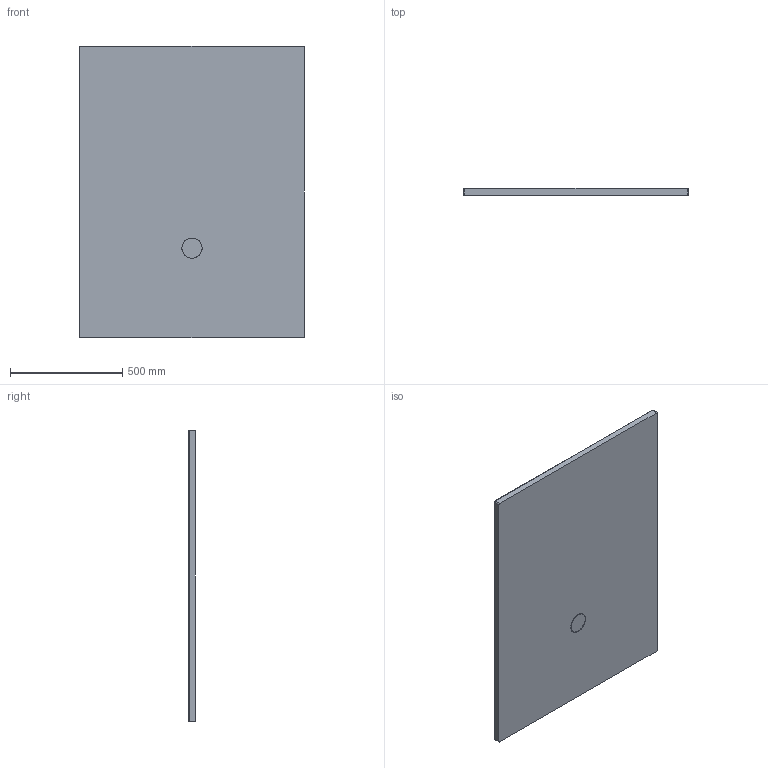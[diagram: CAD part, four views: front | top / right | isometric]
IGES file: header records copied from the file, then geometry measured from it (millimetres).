
Start section: SolidWorks IGES file using analytic representation for surfaces
Global section: file name: D:\Users\M.Szymanski\Desktop\Brodziki\Nias\B_M_NIAS_130x100x1,5.IGS; native system: SolidWorks 2011; preprocessor: SolidWorks 2011; author: M.Szymanski; date: 180222.142210; units: millimetre
Bounding box: 1000 x 30 x 1300 mm (x, y, z)
Surface area: 2755109.7 mm2 (no closed solid volume)
Topology: 0 solids, 0 shells, 45 faces, 655 edges, 654 vertices
Faces by surface type: bspline 25, revolution 20
